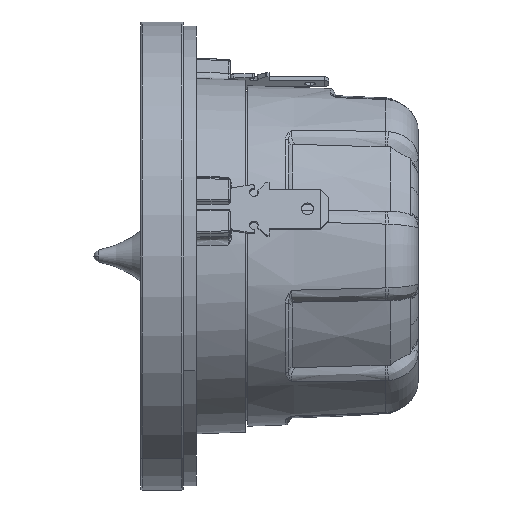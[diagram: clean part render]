
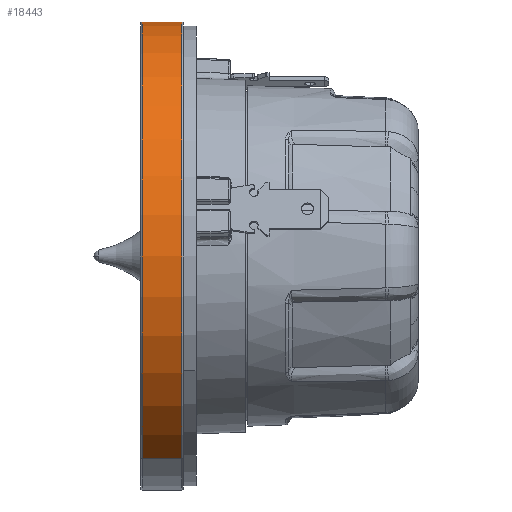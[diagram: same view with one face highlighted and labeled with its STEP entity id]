
A CAD part, left-side view. The second image highlights one B-rep face of the part: STEP entity #18443.
In plain terms, the highlighted cylindrical face has radius 27.5 mm (diameter 55 mm), a partial arc.
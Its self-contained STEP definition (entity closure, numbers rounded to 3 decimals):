
#462 = CARTESIAN_POINT ( 'NONE',  ( -13.75, 18.6, -23.816 ) ) ;
#1801 = DIRECTION ( 'NONE',  ( 0., 1., 0. ) ) ;
#2315 = AXIS2_PLACEMENT_3D ( 'NONE', #13897, #20414, #2425 ) ;
#2425 = DIRECTION ( 'NONE',  ( 0.5, 0., 0.866 ) ) ;
#3022 = CARTESIAN_POINT ( 'NONE',  ( 13.75, 14.5, 23.816 ) ) ;
#3330 = CYLINDRICAL_SURFACE ( 'NONE', #6572, 27.5 ) ;
#4464 = LINE ( 'NONE', #3022, #16111 ) ;
#4583 = CARTESIAN_POINT ( 'NONE',  ( 13.75, 14., 23.816 ) ) ;
#5286 = ORIENTED_EDGE ( 'NONE', *, *, #6116, .F. ) ;
#5470 = CIRCLE ( 'NONE', #2315, 27.5 ) ;
#5827 = CARTESIAN_POINT ( 'NONE',  ( 13.75, 18.6, 23.816 ) ) ;
#6116 = EDGE_CURVE ( 'NONE', #16169, #9046, #4464, .T. ) ;
#6264 = ORIENTED_EDGE ( 'NONE', *, *, #21265, .T. ) ;
#6572 = AXIS2_PLACEMENT_3D ( 'NONE', #10012, #16736, #8807 ) ;
#8331 = LINE ( 'NONE', #19995, #10248 ) ;
#8363 = EDGE_CURVE ( 'NONE', #17775, #9046, #14021, .T. ) ;
#8807 = DIRECTION ( 'NONE',  ( -0.5, 0., -0.866 ) ) ;
#9046 = VERTEX_POINT ( 'NONE', #4583 ) ;
#10012 = CARTESIAN_POINT ( 'NONE',  ( 0., 14.5, 0. ) ) ;
#10116 = DIRECTION ( 'NONE',  ( -0.5, 0., -0.866 ) ) ;
#10248 = VECTOR ( 'NONE', #11301, 1000. ) ;
#11301 = DIRECTION ( 'NONE',  ( 0., -1., 0. ) ) ;
#12142 = CARTESIAN_POINT ( 'NONE',  ( -13.75, 14., -23.816 ) ) ;
#12943 = AXIS2_PLACEMENT_3D ( 'NONE', #17788, #1801, #10116 ) ;
#13047 = EDGE_CURVE ( 'NONE', #16169, #20027, #5470, .T. ) ;
#13897 = CARTESIAN_POINT ( 'NONE',  ( 0., 18.6, 0. ) ) ;
#14021 = CIRCLE ( 'NONE', #12943, 27.5 ) ;
#15170 = FACE_OUTER_BOUND ( 'NONE', #21145, .T. ) ;
#16111 = VECTOR ( 'NONE', #19711, 1000. ) ;
#16169 = VERTEX_POINT ( 'NONE', #5827 ) ;
#16736 = DIRECTION ( 'NONE',  ( 0., -1., 0. ) ) ;
#16839 = ORIENTED_EDGE ( 'NONE', *, *, #13047, .T. ) ;
#17775 = VERTEX_POINT ( 'NONE', #12142 ) ;
#17788 = CARTESIAN_POINT ( 'NONE',  ( 0., 14., 0. ) ) ;
#18443 = ADVANCED_FACE ( 'NONE', ( #15170 ), #3330, .T. ) ;
#19711 = DIRECTION ( 'NONE',  ( 0., -1., 0. ) ) ;
#19995 = CARTESIAN_POINT ( 'NONE',  ( -13.75, 14.5, -23.816 ) ) ;
#20027 = VERTEX_POINT ( 'NONE', #462 ) ;
#20414 = DIRECTION ( 'NONE',  ( 0., -1., 0. ) ) ;
#21084 = ORIENTED_EDGE ( 'NONE', *, *, #8363, .T. ) ;
#21145 = EDGE_LOOP ( 'NONE', ( #5286, #16839, #6264, #21084 ) ) ;
#21265 = EDGE_CURVE ( 'NONE', #20027, #17775, #8331, .T. ) ;
